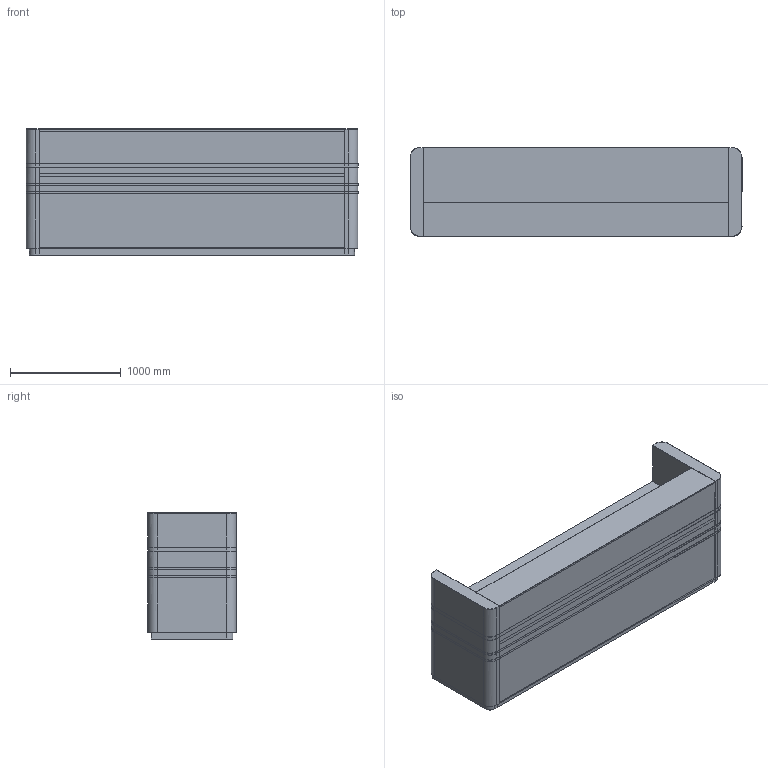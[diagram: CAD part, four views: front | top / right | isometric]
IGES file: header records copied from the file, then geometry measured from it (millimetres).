
Start section: Comment
Global section: file name: Linear - 300 x 80 - ZL.igs; native system:  By UGS Corp.; preprocessor: XPlus GENERIC/IGES 3.0; author: Author; organization: Title; date: 20181120.104314; units: inch
Bounding box: 3003 x 803 x 1140.01 mm (x, y, z)
Surface area: 19248806.6 mm2 (no closed solid volume)
Topology: 0 solids, 0 shells, 144 faces, 820 edges, 820 vertices
Faces by surface type: bspline 144
